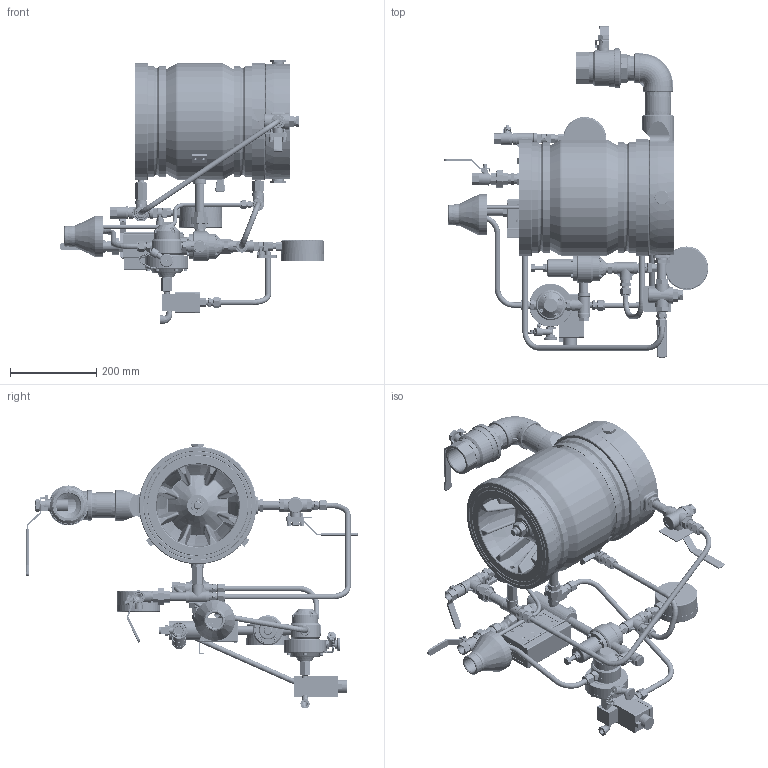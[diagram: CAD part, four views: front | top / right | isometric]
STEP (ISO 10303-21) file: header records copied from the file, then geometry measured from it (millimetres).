
FILE_DESCRIPTION(/* description */ (''),/* implementation_level */ '2;1');
FILE_NAME(/* name */ 'Z:\STANDARD SYSTEM\700DX-04CR05\STEP\799DX-04CR05 FM Trim 8in.stp',/* time_stamp */ '2022-11-17T11:43:46+02:00',/* author */ ('alex'),/* organization */ (''),/* preprocessor_version */ 'ST-DEVELOPER v16.13',/* originating_system */ 'Autodesk Inventor 2018',/* authorisation */ '');
FILE_SCHEMA (('AUTOMOTIVE_DESIGN { 1 0 10303 214 3 1 1 }'));
Length unit declared in the file: inch
Products named in the file (1): 799DX-04CR05 FM Trim 8in STEP_Shrinkwrap_1
Bounding box: 615.01 x 771.73 x 615.66 mm (x, y, z)
Volume: 12257728.4 mm3; surface area: 2951899.6 mm2
Topology: 177 solids, 178 shells, 5961 faces, 14153 edges, 8846 vertices
Faces by surface type: plane 2703, cone 1314, cylinder 1147, bspline 553, torus 222, sphere 22
Full cylindrical faces by diameter (mm): 0.625 x1, 1.2 x10, 1.5 x1, 2 x4, 3 x3, 3.242 x2, 4 x13, 4.1 x2, 4.134 x20, 4.2 x6, 4.3 x4, 4.5 x2, 4.978 x4, 5 x30, 5.2 x24, 5.25 x2, 5.5 x5, 5.8 x4, 6 x6, 6.35 x2, 6.4 x4, 6.5 x2, 6.604 x1, 6.647 x1, 6.88 x2, 7 x10, 7.036 x3, 7.3 x1, 7.5 x2, 7.6 x3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
Entity records: 181490 total; most frequent: CARTESIAN_POINT 50823, ORIENTED_EDGE 24754, DIRECTION 24550, EDGE_CURVE 12368, AXIS2_PLACEMENT_3D 9657, VERTEX_POINT 8472, EDGE_LOOP 8144, STYLED_ITEM 6117
